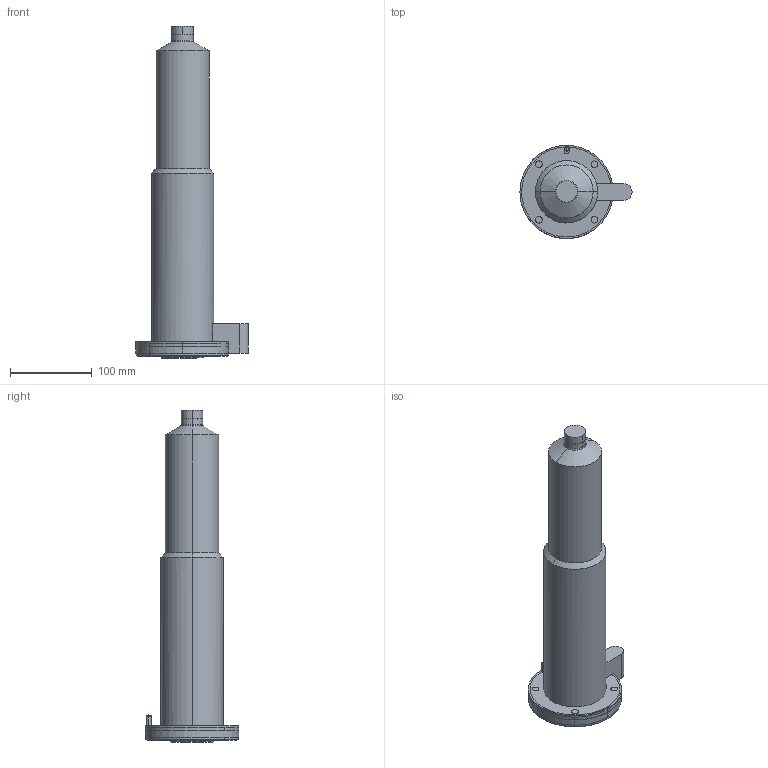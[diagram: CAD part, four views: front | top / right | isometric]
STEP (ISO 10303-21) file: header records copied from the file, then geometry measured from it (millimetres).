
FILE_DESCRIPTION (( 'STEP AP214' ), '1' );
FILE_NAME ('SR20_CLOSED_400_HELICAL.STEP', '2009-08-20T20:30:33', ( 'Synventive Molding Solutions' ), ( 'Synventive Molding Solutions' ), 'SwSTEP 2.0', 'SolidWorks 2008', '' );
FILE_SCHEMA (( 'AUTOMOTIVE_DESIGN' ));
Length unit declared in the file: millimetre
Products named in the file (1): SR20_CLOSED_400_HELICAL
Bounding box: 137 x 114 x 406 mm (x, y, z)
Volume: 2475410.3 mm3; surface area: 230070.6 mm2
Topology: 3 solids, 3 shells, 374 faces, 1013 edges, 644 vertices
Faces by surface type: cylinder 169, plane 78, bspline 70, cone 43, torus 12, sphere 2
Entity records: 35514 total; most frequent: CARTESIAN_POINT 22812, ORIENTED_EDGE 2006, DIRECTION 1569, EDGE_CURVE 1003, VERTEX_POINT 644, AXIS2_PLACEMENT_3D 607, EDGE_LOOP 407, UNCERTAINTY_MEASURE_WITH_UNIT 378
